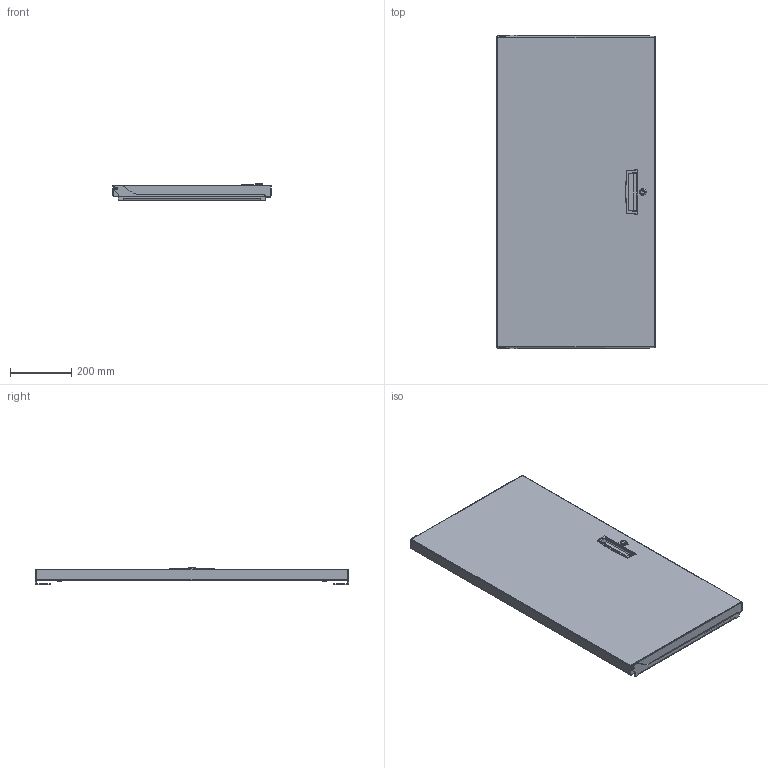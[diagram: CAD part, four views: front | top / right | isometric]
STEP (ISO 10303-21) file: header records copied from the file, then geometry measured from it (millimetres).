
FILE_DESCRIPTION((''),'2;1');
FILE_NAME('ADO-5-21_ASM','2023-12-28T',('mrodri2d'),('Middle Atlantic Products'),'CREO PARAMETRIC BY PTC INC, 2018360','CREO PARAMETRIC BY PTC INC, 2018360','');
FILE_SCHEMA(('CONFIG_CONTROL_DESIGN'));
Length unit declared in the file: inch
Products named in the file (13): P521D; 500-00769; 500-00069; SC-1_125; LOCKCLIP; 80-050; B5DB_1; 85-009-1; P5DB1_ASM; B5DB_2; P5DB2_ASM; 91-036; ADO-5-21_ASM
Assembly tree (14 placements, depth 3):
  ADO-5-21_ASM
    P521D
    500-00769
    500-00069
    SC-1_125
    LOCKCLIP
    80-050  x2
    P5DB1_ASM
      B5DB_1
      85-009-1
    P5DB2_ASM
      B5DB_2
      85-009-1
    91-036
Bounding box: 517.52 x 1024.74 x 55.73 mm (x, y, z)
Volume: 1201720.7 mm3; surface area: 1480161.3 mm2
Topology: 11 solids, 22 shells, 692 faces, 1753 edges, 1088 vertices
Faces by surface type: plane 321, cylinder 254, bspline 45, torus 38, sphere 19, cone 15
Entity records: 25502 total; most frequent: CARTESIAN_POINT 9585, ORIENTED_EDGE 3295, DIRECTION 3126, EDGE_CURVE 1677, AXIS2_PLACEMENT_3D 1080, VERTEX_POINT 1053, VECTOR 966, LINE 966
